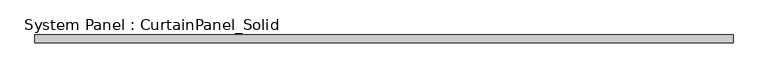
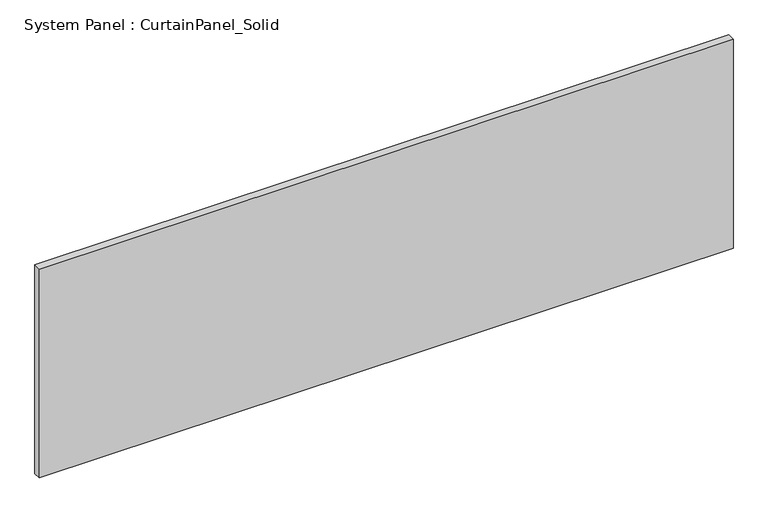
"""IFC4 building model written with IfcOpenShell, lengths in millimetres: plate geometry, System Panel : CurtainPanel_Solid."""

from ifc_helpers import new_model, si_unit, origin, origin_with_axes, place, context, project, spatial, polyline, outline, extrude, source, transform, mapped, element, save


def system_panel_curtainpanel_solid_d52ec4f6(model_context):
    return source(origin(), model_context, "Body", "SweptSolid", [
        extrude(outline(polyline([(1138.6000001, -12.5), (-1138.6000001, -12.5), (-1138.6000001, 12.5), (1138.6000001, 12.5), (1138.6000001, -12.5)])), origin_with_axes(), (0.0, 0.0, 1.0), 725.0),
    ])


if __name__ == "__main__":
    model = new_model("IFC4")
    model_context = context("Model", 3, world=origin())
    ifc_project = project(units=[si_unit("LENGTHUNIT", "METRE", prefix="MILLI")], contexts=[model_context])
    site = spatial("IfcSite", under=ifc_project)
    building = spatial("IfcBuilding", under=site)
    placement = place(None, origin())
    system_panel_curtainpanel_solid_shape = system_panel_curtainpanel_solid_d52ec4f6(model_context)
    element("IfcPlate", 1, ObjectType="System Panel : CurtainPanel_Solid", at=placement, inside=building, context=model_context, shape_type="MappedRepresentation", body=[
        mapped(system_panel_curtainpanel_solid_shape, transform((0.0, 0.0, 0.0), x_axis=(1.0, 0.0, 0.0), y_axis=(0.0, 1.0, 0.0), z_axis=(0.0, 0.0, 1.0))),
    ])
    save(model, "model.ifc")
